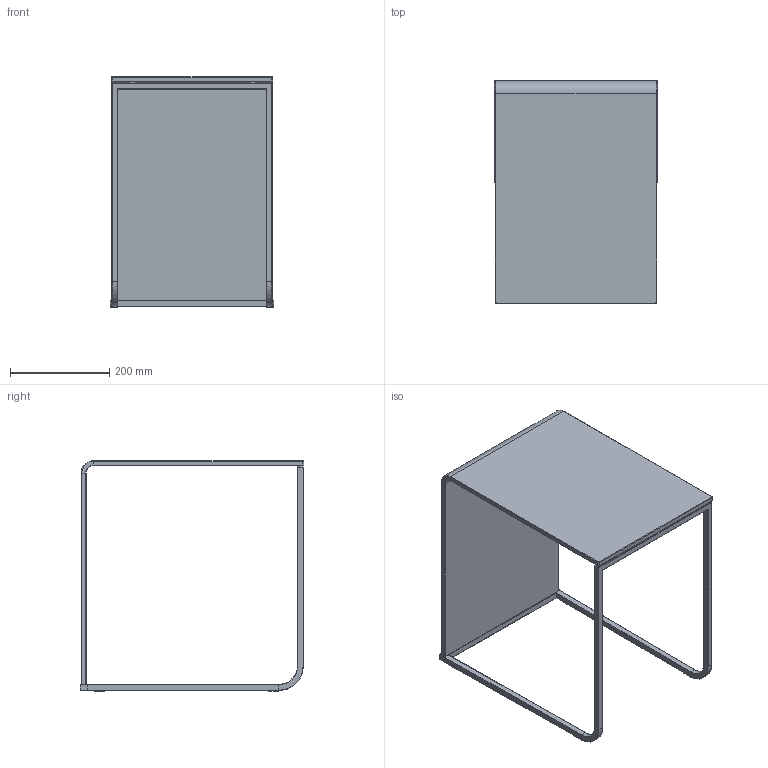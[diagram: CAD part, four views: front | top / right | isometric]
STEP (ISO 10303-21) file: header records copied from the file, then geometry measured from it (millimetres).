
FILE_DESCRIPTION((''),'2;1');
FILE_NAME('C:\AutodeskVault\AreaLavoro\Progetti\SoVeT Italia\2. Tavolini_Coffee tables\Nido\Web file\Nido Web\P4570.stp','2012-06-13T16:48:02',('Gianluca'),('So.Ve.T. s.r.l.'),'Autodesk Inventor 2013','Autodesk Inventor 2013','IL PROGETTO E'' DI ESCLUSIVA PROPRIETA'' DELLA SO.VE.T. srl. E'' VIETATA OGNI RIPRODUZIONE TOTALE O PARZIALE E QUALSIASI UTILIZZO NON AUTORIZZATO.');
FILE_SCHEMA(('AUTOMOTIVE_DESIGN { 1 0 10303 214 1 1 1 1 }'));
Length unit declared in the file: millimetre
Products named in the file (1): P4570 TR Contorno semplificato
Bounding box: 330.01 x 450.93 x 464.5 mm (x, y, z)
Volume: 3208656.6 mm3; surface area: 699948.6 mm2
Topology: 1 solids, 1 shells, 146 faces, 337 edges, 182 vertices
Faces by surface type: plane 65, cylinder 45, cone 12, torus 12, sphere 8, bspline 4
Full cylindrical faces by diameter (mm): 12 x2
Entity records: 4241 total; most frequent: CARTESIAN_POINT 806, DIRECTION 713, ORIENTED_EDGE 638, EDGE_CURVE 319, AXIS2_PLACEMENT_3D 257, VECTOR 199, LINE 199, VERTEX_POINT 180
